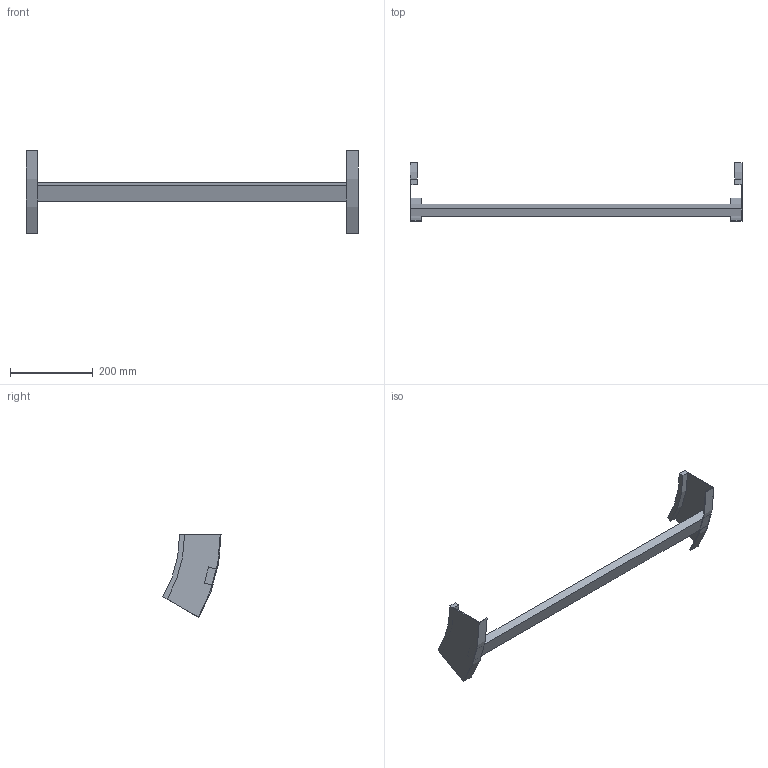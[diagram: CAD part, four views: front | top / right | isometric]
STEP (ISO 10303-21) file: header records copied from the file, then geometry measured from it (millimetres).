
FILE_DESCRIPTION (( 'STEP AP214' ), '1' );
FILE_NAME ('B2X32B3D800XX.step', '2025-03-20T09:58:24', ( '' ), ( '' ), 'SwSTEP 2.0', 'SolidWorks 2023', '' );
FILE_SCHEMA (( 'AUTOMOTIVE_DESIGN' ));
Length unit declared in the file: millimetre
Products named in the file (3): B2_LONGH.SALITA_30°_H100_R300; TRAVERSINO_800; B2X32B3D800XX
Assembly tree (3 placements, depth 2):
  B2X32B3D800XX
    B2_LONGH.SALITA_30°_H100_R300  x2
    TRAVERSINO_800
Bounding box: 800 x 140.19 x 200 mm (x, y, z)
Volume: 800480.4 mm3; surface area: 205619.7 mm2
Topology: 3 solids, 3 shells, 26 faces, 60 edges, 40 vertices
Faces by surface type: plane 18, cylinder 8
Entity records: 544 total; most frequent: DIRECTION 88, CARTESIAN_POINT 82, ORIENTED_EDGE 72, EDGE_CURVE 36, AXIS2_PLACEMENT_3D 30, VECTOR 28, LINE 28, VERTEX_POINT 24
